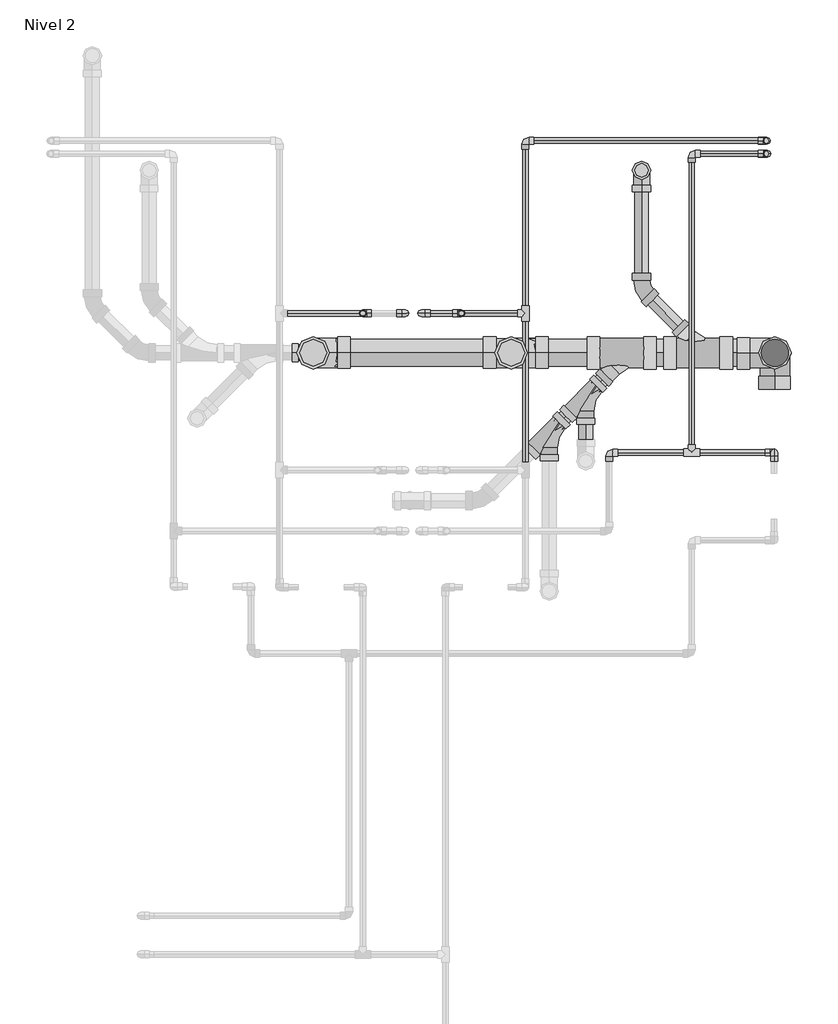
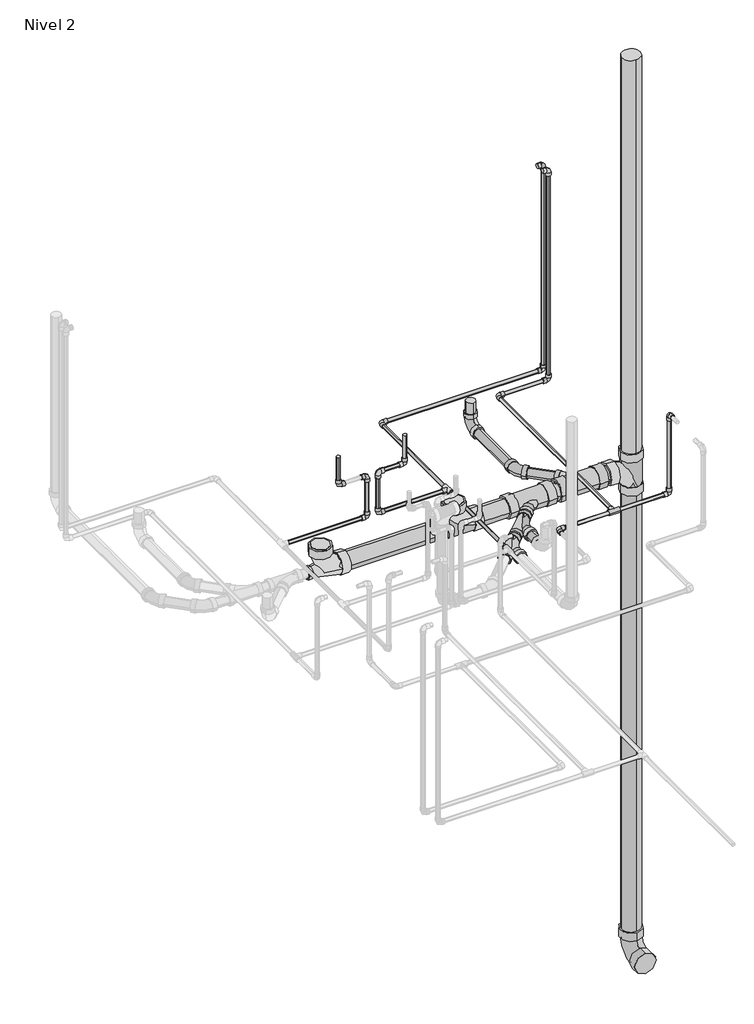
# One storey, part 9 of 9: 31 pipe segments, 27 pipe fittings.
"""IFC4 building model written with IfcOpenShell, lengths in millimetres."""

from ifc_helpers import new_model, si_unit, point, frame, frame_2d, origin, place, context, project, spatial, circle_curve, trimmed, segment, composite_curve, outline, extrude, transform, mapped, element, save
from components import pipe_fitting_ab418b84, pipe_fitting_0163322b, pipe_fitting_2a8dfbef, pipe_fitting_44a425ca, pipe_fitting_ef5974f2, m_codo_pvc_serie_40_9ad74631, m_codo_pvc_serie_40_ba05d404, m_codo_pvc_serie_40_dwv1_f5c0a64d, m_codo_pvc_serie_40_dwv1_6f1a2495, m_codo_pvc_serie_40_dwv1_326aaa64

model = new_model("IFC4")

# Units and contexts
model_context = context("Model", 3, world=origin())
ifc_project = project(units=[si_unit("LENGTHUNIT", "METRE", prefix="MILLI")], contexts=[model_context])

# Site, building, storey
site = spatial("IfcSite", under=ifc_project)
building = spatial("IfcBuilding", under=site)
storey = spatial("IfcBuildingStorey", under=building, Name="Nivel 2", Elevation=2800.0)

# Pipe fittings
placement = place(None, origin())
pipe_fitting_shape = pipe_fitting_ab418b84(model_context)
element("IfcPipeFitting", 1, ObjectType="M_Te - PVC - Serie 40 : Estándar", at=placement, inside=storey, context=model_context, shape_type="MappedRepresentation", body=[
    mapped(pipe_fitting_shape, transform((4894.5674476, 16556.8784649, 2750.0), x_axis=(0.0, 1.0, 0.0), y_axis=(1.0, 0.0, 0.0), z_axis=(0.0, 0.0, -1.0))),
])
element("IfcPipeFitting", 2, ObjectType="M_Te - PVC - Serie 40 : Estándar", at=placement, inside=storey, context=model_context, shape_type="MappedRepresentation", body=[
    mapped(pipe_fitting_shape, transform((5540.0276039, 16016.3878958, 2720.0), x_axis=(-1.0, 0.0, 0.0), y_axis=(0.0, -1.0, 0.0), z_axis=(0.0, 0.0, 1.0))),
])
pipe_fitting_2_shape = pipe_fitting_0163322b(model_context)
element("IfcPipeFitting", 3, ObjectType="M_Sanitario con te de reducción - PVC - Serie 40 - DWV : Estándar", at=placement, inside=storey, context=model_context, shape_type="MappedRepresentation", body=[
    mapped(pipe_fitting_2_shape, transform((5128.991198, 16235.29172, 2650.0), x_axis=(-0.7071067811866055, -0.7071067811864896, 0.0), y_axis=(-0.7071067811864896, 0.7071067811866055, 0.0), z_axis=(0.0, 0.0, -1.0))),
])
element("IfcPipeFitting", 4, ObjectType="M_Sanitario con te de reducción - PVC - Serie 40 - DWV : Estándar", at=placement, inside=storey, context=model_context, shape_type="MappedRepresentation", body=[
    mapped(pipe_fitting_2_shape, transform((4986.7349767, 16093.0354988, 2650.0), x_axis=(-0.7071067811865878, -0.7071067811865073, 0.0), y_axis=(-0.7071067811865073, 0.7071067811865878, 0.0), z_axis=(0.0, 0.0, -1.0))),
])
pipe_fitting_3_shape = pipe_fitting_2a8dfbef(model_context)
element("IfcPipeFitting", 5, ObjectType="M_Sanitario con te de reducción - PVC - Serie 40 - DWV : Estándar", at=placement, inside=storey, context=model_context, shape_type="MappedRepresentation", body=[
    mapped(pipe_fitting_3_shape, transform((4839.2491598, 16403.3960274, 2650.0), x_axis=(-1.0, 0.0, 0.0), y_axis=(0.0, 0.0, -1.0), z_axis=(0.0, -1.0, 0.0))),
])
element("IfcPipeFitting", 6, ObjectType="M_Sanitario con te de reducción - PVC - Serie 40 - DWV : Estándar", at=placement, inside=storey, context=model_context, shape_type="MappedRepresentation", body=[
    mapped(pipe_fitting_3_shape, transform((5863.1438745, 16403.3960274, 2650.0), x_axis=(0.0, 0.0, 1.0), y_axis=(1.0, 0.0, 0.0), z_axis=(0.0, 1.0, 0.0))),
])
pipe_fitting_4_shape = pipe_fitting_44a425ca(model_context)
element("IfcPipeFitting", 7, ObjectType="M_Sanitario con te de reducción - PVC - Serie 40 - DWV : Estándar", at=placement, inside=storey, context=model_context, shape_type="MappedRepresentation", body=[
    mapped(pipe_fitting_4_shape, transform((4070.6571051, 16403.3960274, 2650.0), x_axis=(-1.0, 0.0, 0.0), y_axis=(0.0, 0.0, -1.0), z_axis=(0.0, -1.0, 0.0))),
])
pipe_fitting_5_shape = pipe_fitting_ef5974f2(model_context)
element("IfcPipeFitting", 8, ObjectType="M_Sanitario con te de reducción - PVC - Serie 40 - DWV : Estándar", at=placement, inside=storey, context=model_context, shape_type="MappedRepresentation", body=[
    mapped(pipe_fitting_5_shape, transform((5593.2700372, 16403.3960274, 2650.0), x_axis=(-1.0, 0.0, 0.0), y_axis=(0.0, -1.0, 0.0), z_axis=(0.0, 0.0, 1.0))),
])
element("IfcPipeFitting", 9, ObjectType="M_Sanitario con te de reducción - PVC - Serie 40 - DWV : Estándar", at=placement, inside=storey, context=model_context, shape_type="MappedRepresentation", body=[
    mapped(pipe_fitting_5_shape, transform((5297.0955053, 16403.3960274, 2650.0), x_axis=(-1.0, 0.0, 0.0), y_axis=(0.0, 1.0, 0.0), z_axis=(0.0, 0.0, -1.0))),
])
m_codo_pvc_serie_40_shape = m_codo_pvc_serie_40_9ad74631(model_context)
element("IfcPipeFitting", 10, ObjectType="M_Codo - PVC - Serie 40 : Estándar", at=placement, inside=storey, context=model_context, shape_type="MappedRepresentation", body=[
    mapped(m_codo_pvc_serie_40_shape, transform((4263.6339186, 16556.8784649, 3000.0), x_axis=(0.0, 0.0, -1.0), y_axis=(1.0, 0.0, 0.0), z_axis=(0.0, -1.0, 0.0))),
])
element("IfcPipeFitting", 11, ObjectType="M_Codo - PVC - Serie 40 : Estándar", at=placement, inside=storey, context=model_context, shape_type="MappedRepresentation", body=[
    mapped(m_codo_pvc_serie_40_shape, transform((4428.6339186, 16556.8784649, 3000.0), x_axis=(1.0, 0.0, 0.0), y_axis=(0.0, 0.0, -1.0), z_axis=(0.0, 1.0, 0.0))),
])
element("IfcPipeFitting", 12, ObjectType="M_Codo - PVC - Serie 40 : Estándar", at=placement, inside=storey, context=model_context, shape_type="MappedRepresentation", body=[
    mapped(m_codo_pvc_serie_40_shape, transform((4428.6339186, 16556.8784649, 2750.0), x_axis=(0.0, 0.0, -1.0), y_axis=(-1.0, 0.0, 0.0), z_axis=(0.0, 1.0, 0.0))),
])
element("IfcPipeFitting", 13, ObjectType="M_Codo - PVC - Serie 40 : Estándar", at=placement, inside=storey, context=model_context, shape_type="MappedRepresentation", body=[
    mapped(m_codo_pvc_serie_40_shape, transform((4646.2723463, 16556.8784649, 3000.0), x_axis=(0.0, 0.0, -1.0), y_axis=(-1.0, 0.0, 0.0), z_axis=(0.0, 1.0, 0.0))),
])
element("IfcPipeFitting", 14, ObjectType="M_Codo - PVC - Serie 40 : Estándar", at=placement, inside=storey, context=model_context, shape_type="MappedRepresentation", body=[
    mapped(m_codo_pvc_serie_40_shape, transform((4491.2723463, 16556.8784649, 3000.0), x_axis=(-1.0, 0.0, 0.0), y_axis=(0.0, 0.0, -1.0), z_axis=(0.0, -1.0, 0.0))),
])
element("IfcPipeFitting", 15, ObjectType="M_Codo - PVC - Serie 40 : Estándar", at=placement, inside=storey, context=model_context, shape_type="MappedRepresentation", body=[
    mapped(m_codo_pvc_serie_40_shape, transform((4894.5674476, 17227.3386211, 2750.0), x_axis=(-1.0, 0.0, 0.0), y_axis=(0.0, -1.0, 0.0), z_axis=(0.0, 0.0, 1.0))),
])
element("IfcPipeFitting", 16, ObjectType="M_Codo - PVC - Serie 40 : Estándar", at=placement, inside=storey, context=model_context, shape_type="MappedRepresentation", body=[
    mapped(m_codo_pvc_serie_40_shape, transform((4491.2723463, 16556.8784649, 2750.0), x_axis=(0.0, 0.0, -1.0), y_axis=(1.0, 0.0, 0.0), z_axis=(0.0, -1.0, 0.0))),
])
element("IfcPipeFitting", 17, ObjectType="M_Codo - PVC - Serie 40 : Estándar", at=placement, inside=storey, context=model_context, shape_type="MappedRepresentation", body=[
    mapped(m_codo_pvc_serie_40_shape, transform((5860.0276039, 16016.3878958, 3200.0), x_axis=(0.0, 1.0, 0.0), y_axis=(0.0, 0.0, -1.0), z_axis=(-1.0, 0.0, 0.0))),
])
element("IfcPipeFitting", 18, ObjectType="M_Codo - PVC - Serie 40 : Estándar", at=placement, inside=storey, context=model_context, shape_type="MappedRepresentation", body=[
    mapped(m_codo_pvc_serie_40_shape, transform((5860.0276039, 16016.3878958, 2720.0), x_axis=(0.0, 0.0, -1.0), y_axis=(-1.0, 0.0, 0.0), z_axis=(0.0, 1.0, 0.0))),
])
element("IfcPipeFitting", 19, ObjectType="M_Codo - PVC - Serie 40 : Estándar", at=placement, inside=storey, context=model_context, shape_type="MappedRepresentation", body=[
    mapped(m_codo_pvc_serie_40_shape, transform((5540.0276039, 17176.3878958, 2720.0), x_axis=(-1.0, 0.0, 0.0), y_axis=(0.0, -1.0, 0.0), z_axis=(0.0, 0.0, 1.0))),
])
element("IfcPipeFitting", 20, ObjectType="M_Codo - PVC - Serie 40 : Estándar", at=placement, inside=storey, context=model_context, shape_type="MappedRepresentation", body=[
    mapped(m_codo_pvc_serie_40_shape, transform((5832.5276039, 17176.3878958, 2720.0), x_axis=(1.0, 0.0, 0.0), y_axis=(0.0, 0.0, 1.0), z_axis=(0.0, -1.0, 0.0))),
])
element("IfcPipeFitting", 21, ObjectType="M_Codo - PVC - Serie 40 : Estándar", at=placement, inside=storey, context=model_context, shape_type="MappedRepresentation", body=[
    mapped(m_codo_pvc_serie_40_shape, transform((5832.5276039, 17176.3878958, 4000.0), x_axis=(0.0, 0.0, 1.0), y_axis=(-1.0, 0.0, 0.0), z_axis=(0.0, -1.0, 0.0))),
])
element("IfcPipeFitting", 22, ObjectType="M_Codo - PVC - Serie 40 : Estándar", at=placement, inside=storey, context=model_context, shape_type="MappedRepresentation", body=[
    mapped(m_codo_pvc_serie_40_shape, transform((5219.5674476, 16016.3878958, 2720.0), x_axis=(-1.0, 0.0, 0.0), y_axis=(0.0, -1.0, 0.0), z_axis=(0.0, 0.0, 1.0))),
])
m_codo_pvc_serie_40_2_shape = m_codo_pvc_serie_40_ba05d404(model_context)
element("IfcPipeFitting", 23, ObjectType="M_Codo - PVC - Serie 40 : Estándar", at=placement, inside=storey, context=model_context, shape_type="MappedRepresentation", body=[
    mapped(m_codo_pvc_serie_40_2_shape, transform((5831.7288958, 17227.3386211, 2750.0), x_axis=(1.0, 0.0, 0.0), y_axis=(0.0, 0.0, -1.0), z_axis=(0.0, 1.0, 0.0))),
])
element("IfcPipeFitting", 24, ObjectType="M_Codo - PVC - Serie 40 : Estándar", at=placement, inside=storey, context=model_context, shape_type="MappedRepresentation", body=[
    mapped(m_codo_pvc_serie_40_2_shape, transform((5831.7288958, 17227.3386211, 4000.0), x_axis=(0.0, 0.0, 1.0), y_axis=(1.0, 0.0, 0.0), z_axis=(0.0, 1.0, 0.0))),
])
m_codo_pvc_serie_40_dwv1_shape = m_codo_pvc_serie_40_dwv1_f5c0a64d(model_context)
element("IfcPipeFitting", 25, ObjectType="M_Codo - PVC - Serie 40 - DWV1 : Estándar 2", at=placement, inside=storey, context=model_context, shape_type="MappedRepresentation", body=[
    mapped(m_codo_pvc_serie_40_dwv1_shape, transform((5863.1438745, 16403.3960274, -300.0), x_axis=(0.0, 0.0, -1.0), y_axis=(0.0, -1.0, 0.0), z_axis=(-1.0, 0.0, 0.0))),
])
m_codo_pvc_serie_40_dwv1_2_shape = m_codo_pvc_serie_40_dwv1_6f1a2495(model_context)
element("IfcPipeFitting", 26, ObjectType="M_Codo - PVC - Serie 40 - DWV1 : Estándar 2", at=placement, inside=storey, context=model_context, shape_type="MappedRepresentation", body=[
    mapped(m_codo_pvc_serie_40_dwv1_2_shape, transform((5345.3911414, 16651.2749231, 2650.0), x_axis=(0.0, -1.0, 0.0), y_axis=(1.0, 0.0, 0.0), z_axis=(0.0, 0.0, 1.0))),
])
m_codo_pvc_serie_40_dwv1_3_shape = m_codo_pvc_serie_40_dwv1_326aaa64(model_context)
element("IfcPipeFitting", 27, ObjectType="M_Codo - PVC - Serie 40 - DWV1 : Estándar 2", at=placement, inside=storey, context=model_context, shape_type="MappedRepresentation", body=[
    mapped(m_codo_pvc_serie_40_dwv1_3_shape, transform((5345.3911414, 17111.7600116, 2650.0), x_axis=(0.0, 1.0, 0.0), y_axis=(0.0, 0.0, -1.0), z_axis=(-1.0, 0.0, 0.0))),
])

# Pipe segments
element("IfcPipeSegment", 28, ObjectType="Tuberia PVC Agua Fria", at=placement, inside=storey, context=model_context, shape_type="SweptSolid", body=[
    extrude(outline(composite_curve([segment(trimmed(circle_curve(frame_2d((4263.6339186, 16556.8784649)), 10.31875), [point((4273.9526686, 16556.8784649))], [point((4263.6339186, 16546.5597149))], False, "CARTESIAN"), True, "CONTINUOUS"), segment(trimmed(circle_curve(frame_2d((4263.6339186, 16556.8784649)), 10.31875), [point((4263.6339186, 16546.5597149))], [point((4253.3151686, 16556.8784649))], False, "CARTESIAN"), True, "CONTINUOUS"), segment(trimmed(circle_curve(frame_2d((4263.6339186, 16556.8784649)), 10.31875), [point((4253.3151686, 16556.8784649))], [point((4263.6339186, 16567.1972149))], False, "CARTESIAN"), True, "CONTINUOUS"), segment(trimmed(circle_curve(frame_2d((4263.6339186, 16556.8784649)), 10.31875), [point((4263.6339186, 16567.1972149))], [point((4273.9526686, 16556.8784649))], False, "CARTESIAN"), True, "CONTINUOUS")], self_intersect=False)), frame((0.0, 0.0, 3033.401), z_axis=(0.0, 0.0, 1.0), x_axis=(1.0, 0.0, 0.0)), (0.0, 0.0, 1.0), 139.7562509),
])
element("IfcPipeSegment", 29, ObjectType="Tuberia PVC Agua Fria", at=placement, inside=storey, context=model_context, shape_type="SweptSolid", body=[
    extrude(outline(composite_curve([segment(trimmed(circle_curve(frame_2d((16556.8784649, 2750.0)), 10.31875), [point((16567.1972149, 2750.0))], [point((16556.8784649, 2739.68125))], False, "CARTESIAN"), True, "CONTINUOUS"), segment(trimmed(circle_curve(frame_2d((16556.8784649, 2750.0)), 10.31875), [point((16556.8784649, 2739.68125))], [point((16546.5597149, 2750.0))], False, "CARTESIAN"), True, "CONTINUOUS"), segment(trimmed(circle_curve(frame_2d((16556.8784649, 2750.0)), 10.31875), [point((16546.5597149, 2750.0))], [point((16556.8784649, 2760.31875))], False, "CARTESIAN"), True, "CONTINUOUS"), segment(trimmed(circle_curve(frame_2d((16556.8784649, 2750.0)), 10.31875), [point((16556.8784649, 2760.31875))], [point((16567.1972149, 2750.0))], False, "CARTESIAN"), True, "CONTINUOUS")], self_intersect=False)), frame((3970.5125253, 0.0, 0.0), z_axis=(1.0, 0.0, 0.0), x_axis=(0.0, 1.0, 0.0)), (0.0, 0.0, 1.0), 424.7203933),
])
element("IfcPipeSegment", 30, ObjectType="Tuberia PVC Agua Fria", at=placement, inside=storey, context=model_context, shape_type="SweptSolid", body=[
    extrude(outline(composite_curve([segment(trimmed(circle_curve(frame_2d((4428.6339186, 16556.8784649)), 10.31875), [point((4438.9526686, 16556.8784649))], [point((4428.6339186, 16546.5597149))], False, "CARTESIAN"), True, "CONTINUOUS"), segment(trimmed(circle_curve(frame_2d((4428.6339186, 16556.8784649)), 10.31875), [point((4428.6339186, 16546.5597149))], [point((4418.3151686, 16556.8784649))], False, "CARTESIAN"), True, "CONTINUOUS"), segment(trimmed(circle_curve(frame_2d((4428.6339186, 16556.8784649)), 10.31875), [point((4418.3151686, 16556.8784649))], [point((4428.6339186, 16567.1972149))], False, "CARTESIAN"), True, "CONTINUOUS"), segment(trimmed(circle_curve(frame_2d((4428.6339186, 16556.8784649)), 10.31875), [point((4428.6339186, 16567.1972149))], [point((4438.9526686, 16556.8784649))], False, "CARTESIAN"), True, "CONTINUOUS")], self_intersect=False)), frame((0.0, 0.0, 2783.401), z_axis=(0.0, 0.0, 1.0), x_axis=(1.0, 0.0, 0.0)), (0.0, 0.0, 1.0), 183.198),
])
element("IfcPipeSegment", 31, ObjectType="Tuberia PVC Agua Fria", at=placement, inside=storey, context=model_context, shape_type="SweptSolid", body=[
    extrude(outline(composite_curve([segment(trimmed(circle_curve(frame_2d((16556.8784649, 3000.0)), 10.31875), [point((16567.1972149, 3000.0))], [point((16556.8784649, 2989.68125))], False, "CARTESIAN"), True, "CONTINUOUS"), segment(trimmed(circle_curve(frame_2d((16556.8784649, 3000.0)), 10.31875), [point((16556.8784649, 2989.68125))], [point((16546.5597149, 3000.0))], False, "CARTESIAN"), True, "CONTINUOUS"), segment(trimmed(circle_curve(frame_2d((16556.8784649, 3000.0)), 10.31875), [point((16546.5597149, 3000.0))], [point((16556.8784649, 3010.31875))], False, "CARTESIAN"), True, "CONTINUOUS"), segment(trimmed(circle_curve(frame_2d((16556.8784649, 3000.0)), 10.31875), [point((16556.8784649, 3010.31875))], [point((16567.1972149, 3000.0))], False, "CARTESIAN"), True, "CONTINUOUS")], self_intersect=False)), frame((4524.6733463, 0.0, 0.0), z_axis=(1.0, 0.0, 0.0), x_axis=(0.0, 1.0, 0.0)), (0.0, 0.0, 1.0), 88.198),
])
element("IfcPipeSegment", 32, ObjectType="Tuberia PVC Agua Fria", at=placement, inside=storey, context=model_context, shape_type="SweptSolid", body=[
    extrude(outline(composite_curve([segment(trimmed(circle_curve(frame_2d((4646.2723463, 16556.8784649)), 10.31875), [point((4656.5910963, 16556.8784649))], [point((4646.2723463, 16546.5597149))], False, "CARTESIAN"), True, "CONTINUOUS"), segment(trimmed(circle_curve(frame_2d((4646.2723463, 16556.8784649)), 10.31875), [point((4646.2723463, 16546.5597149))], [point((4635.9535963, 16556.8784649))], False, "CARTESIAN"), True, "CONTINUOUS"), segment(trimmed(circle_curve(frame_2d((4646.2723463, 16556.8784649)), 10.31875), [point((4635.9535963, 16556.8784649))], [point((4646.2723463, 16567.1972149))], False, "CARTESIAN"), True, "CONTINUOUS"), segment(trimmed(circle_curve(frame_2d((4646.2723463, 16556.8784649)), 10.31875), [point((4646.2723463, 16567.1972149))], [point((4656.5910963, 16556.8784649))], False, "CARTESIAN"), True, "CONTINUOUS")], self_intersect=False)), frame((0.0, 0.0, 3033.401), z_axis=(0.0, 0.0, 1.0), x_axis=(1.0, 0.0, 0.0)), (0.0, 0.0, 1.0), 139.7562509),
])
element("IfcPipeSegment", 33, ObjectType="Tuberia PVC Agua Fria", at=placement, inside=storey, context=model_context, shape_type="SweptSolid", body=[
    extrude(outline(composite_curve([segment(trimmed(circle_curve(frame_2d((4491.2723463, 16556.8784649)), 10.31875), [point((4501.5910963, 16556.8784649))], [point((4491.2723463, 16546.5597149))], False, "CARTESIAN"), True, "CONTINUOUS"), segment(trimmed(circle_curve(frame_2d((4491.2723463, 16556.8784649)), 10.31875), [point((4491.2723463, 16546.5597149))], [point((4480.9535963, 16556.8784649))], False, "CARTESIAN"), True, "CONTINUOUS"), segment(trimmed(circle_curve(frame_2d((4491.2723463, 16556.8784649)), 10.31875), [point((4480.9535963, 16556.8784649))], [point((4491.2723463, 16567.1972149))], False, "CARTESIAN"), True, "CONTINUOUS"), segment(trimmed(circle_curve(frame_2d((4491.2723463, 16556.8784649)), 10.31875), [point((4491.2723463, 16567.1972149))], [point((4501.5910963, 16556.8784649))], False, "CARTESIAN"), True, "CONTINUOUS")], self_intersect=False)), frame((0.0, 0.0, 2783.401), z_axis=(0.0, 0.0, 1.0), x_axis=(1.0, 0.0, 0.0)), (0.0, 0.0, 1.0), 183.198),
])
element("IfcPipeSegment", 34, ObjectType="Tuberia PVC Agua Fria", at=placement, inside=storey, context=model_context, shape_type="SweptSolid", body=[
    extrude(outline(composite_curve([segment(trimmed(circle_curve(frame_2d((17227.3386211, 2750.0)), 10.31875), [point((17217.0198711, 2750.0))], [point((17227.3386211, 2760.31875))], False, "CARTESIAN"), True, "CONTINUOUS"), segment(trimmed(circle_curve(frame_2d((17227.3386211, 2750.0)), 10.31875), [point((17227.3386211, 2760.31875))], [point((17237.6573711, 2750.0))], False, "CARTESIAN"), True, "CONTINUOUS"), segment(trimmed(circle_curve(frame_2d((17227.3386211, 2750.0)), 10.31875), [point((17237.6573711, 2750.0))], [point((17227.3386211, 2739.68125))], False, "CARTESIAN"), True, "CONTINUOUS"), segment(trimmed(circle_curve(frame_2d((17227.3386211, 2750.0)), 10.31875), [point((17227.3386211, 2739.68125))], [point((17217.0198711, 2750.0))], False, "CARTESIAN"), True, "CONTINUOUS")], self_intersect=False)), frame((4927.9684476, 0.0, 0.0), z_axis=(1.0, 0.0, 0.0), x_axis=(0.0, 1.0, 0.0)), (0.0, 0.0, 1.0), 870.3594481),
])
element("IfcPipeSegment", 35, ObjectType="Tuberia PVC Agua Fria", at=placement, inside=storey, context=model_context, shape_type="SweptSolid", body=[
    extrude(outline(composite_curve([segment(trimmed(circle_curve(frame_2d((5831.7288958, 17227.3386211)), 10.31875), [point((5821.4101458, 17227.3386211))], [point((5831.7288958, 17237.6573711))], False, "CARTESIAN"), True, "CONTINUOUS"), segment(trimmed(circle_curve(frame_2d((5831.7288958, 17227.3386211)), 10.31875), [point((5831.7288958, 17237.6573711))], [point((5842.0476458, 17227.3386211))], False, "CARTESIAN"), True, "CONTINUOUS"), segment(trimmed(circle_curve(frame_2d((5831.7288958, 17227.3386211)), 10.31875), [point((5842.0476458, 17227.3386211))], [point((5831.7288958, 17217.0198711))], False, "CARTESIAN"), True, "CONTINUOUS"), segment(trimmed(circle_curve(frame_2d((5831.7288958, 17227.3386211)), 10.31875), [point((5831.7288958, 17217.0198711))], [point((5821.4101458, 17227.3386211))], False, "CARTESIAN"), True, "CONTINUOUS")], self_intersect=False)), frame((0.0, 0.0, 2783.401), z_axis=(0.0, 0.0, 1.0), x_axis=(1.0, 0.0, 0.0)), (0.0, 0.0, 1.0), 1183.198),
])
element("IfcPipeSegment", 36, ObjectType="Tuberia PVC Agua Fria", at=placement, inside=storey, context=model_context, shape_type="SweptSolid", body=[
    extrude(outline(composite_curve([segment(trimmed(circle_curve(frame_2d((16556.8784649, 2750.0)), 10.31875), [point((16546.5597149, 2750.0))], [point((16556.8784649, 2760.31875))], False, "CARTESIAN"), True, "CONTINUOUS"), segment(trimmed(circle_curve(frame_2d((16556.8784649, 2750.0)), 10.31875), [point((16556.8784649, 2760.31875))], [point((16567.1972149, 2750.0))], False, "CARTESIAN"), True, "CONTINUOUS"), segment(trimmed(circle_curve(frame_2d((16556.8784649, 2750.0)), 10.31875), [point((16567.1972149, 2750.0))], [point((16556.8784649, 2739.68125))], False, "CARTESIAN"), True, "CONTINUOUS"), segment(trimmed(circle_curve(frame_2d((16556.8784649, 2750.0)), 10.31875), [point((16556.8784649, 2739.68125))], [point((16546.5597149, 2750.0))], False, "CARTESIAN"), True, "CONTINUOUS")], self_intersect=False)), frame((4524.6733463, 0.0, 0.0), z_axis=(1.0, 0.0, 0.0), x_axis=(0.0, 1.0, 0.0)), (0.0, 0.0, 1.0), 339.4339451),
])
element("IfcPipeSegment", 37, ObjectType="Tuberia PVC Agua Fria", at=placement, inside=storey, context=model_context, shape_type="SweptSolid", body=[
    extrude(outline(composite_curve([segment(trimmed(circle_curve(frame_2d((2750.0, 4894.5674476)), 10.31875), [point((2750.0, 4884.2486976))], [point((2739.68125, 4894.5674476))], False, "CARTESIAN"), True, "CONTINUOUS"), segment(trimmed(circle_curve(frame_2d((2750.0, 4894.5674476)), 10.31875), [point((2739.68125, 4894.5674476))], [point((2750.0, 4904.8861976))], False, "CARTESIAN"), True, "CONTINUOUS"), segment(trimmed(circle_curve(frame_2d((2750.0, 4894.5674476)), 10.31875), [point((2750.0, 4904.8861976))], [point((2760.31875, 4894.5674476))], False, "CARTESIAN"), True, "CONTINUOUS"), segment(trimmed(circle_curve(frame_2d((2750.0, 4894.5674476)), 10.31875), [point((2760.31875, 4894.5674476))], [point((2750.0, 4884.2486976))], False, "CARTESIAN"), True, "CONTINUOUS")], self_intersect=False)), frame((0.0, 15978.8385729, 0.0), z_axis=(0.0, 1.0, 0.0), x_axis=(0.0, 0.0, 1.0)), (0.0, 0.0, 1.0), 547.5797357),
])
element("IfcPipeSegment", 38, ObjectType="Tuberia PVC Agua Fria", at=placement, inside=storey, context=model_context, shape_type="SweptSolid", body=[
    extrude(outline(composite_curve([segment(trimmed(circle_curve(frame_2d((2750.0, 4894.5674476)), 10.31875), [point((2750.0, 4884.2486976))], [point((2739.68125, 4894.5674476))], False, "CARTESIAN"), True, "CONTINUOUS"), segment(trimmed(circle_curve(frame_2d((2750.0, 4894.5674476)), 10.31875), [point((2739.68125, 4894.5674476))], [point((2750.0, 4904.8861976))], False, "CARTESIAN"), True, "CONTINUOUS"), segment(trimmed(circle_curve(frame_2d((2750.0, 4894.5674476)), 10.31875), [point((2750.0, 4904.8861976))], [point((2760.31875, 4894.5674476))], False, "CARTESIAN"), True, "CONTINUOUS"), segment(trimmed(circle_curve(frame_2d((2750.0, 4894.5674476)), 10.31875), [point((2760.31875, 4894.5674476))], [point((2750.0, 4884.2486976))], False, "CARTESIAN"), True, "CONTINUOUS")], self_intersect=False)), frame((0.0, 16587.3386211, 0.0), z_axis=(0.0, 1.0, 0.0), x_axis=(0.0, 0.0, 1.0)), (0.0, 0.0, 1.0), 606.599),
])
element("IfcPipeSegment", 39, ObjectType="Tuberia PVC Agua Caliente", at=placement, inside=storey, context=model_context, shape_type="SweptSolid", body=[
    extrude(outline(composite_curve([segment(trimmed(circle_curve(frame_2d((16016.3878958, 2720.0)), 10.31875), [point((16026.7066458, 2720.0))], [point((16016.3878958, 2709.68125))], False, "CARTESIAN"), True, "CONTINUOUS"), segment(trimmed(circle_curve(frame_2d((16016.3878958, 2720.0)), 10.31875), [point((16016.3878958, 2709.68125))], [point((16006.0691458, 2720.0))], False, "CARTESIAN"), True, "CONTINUOUS"), segment(trimmed(circle_curve(frame_2d((16016.3878958, 2720.0)), 10.31875), [point((16006.0691458, 2720.0))], [point((16016.3878958, 2730.31875))], False, "CARTESIAN"), True, "CONTINUOUS"), segment(trimmed(circle_curve(frame_2d((16016.3878958, 2720.0)), 10.31875), [point((16016.3878958, 2730.31875))], [point((16026.7066458, 2720.0))], False, "CARTESIAN"), True, "CONTINUOUS")], self_intersect=False)), frame((5570.4877601, 0.0, 0.0), z_axis=(1.0, 0.0, 0.0), x_axis=(0.0, 1.0, 0.0)), (0.0, 0.0, 1.0), 256.1388438),
])
element("IfcPipeSegment", 40, ObjectType="Tuberia PVC Agua Caliente", at=placement, inside=storey, context=model_context, shape_type="SweptSolid", body=[
    extrude(outline(composite_curve([segment(trimmed(circle_curve(frame_2d((5860.0276039, 16016.3878958)), 10.31875), [point((5870.3463539, 16016.3878958))], [point((5860.0276039, 16006.0691458))], False, "CARTESIAN"), True, "CONTINUOUS"), segment(trimmed(circle_curve(frame_2d((5860.0276039, 16016.3878958)), 10.31875), [point((5860.0276039, 16006.0691458))], [point((5849.7088539, 16016.3878958))], False, "CARTESIAN"), True, "CONTINUOUS"), segment(trimmed(circle_curve(frame_2d((5860.0276039, 16016.3878958)), 10.31875), [point((5849.7088539, 16016.3878958))], [point((5860.0276039, 16026.7066458))], False, "CARTESIAN"), True, "CONTINUOUS"), segment(trimmed(circle_curve(frame_2d((5860.0276039, 16016.3878958)), 10.31875), [point((5860.0276039, 16026.7066458))], [point((5870.3463539, 16016.3878958))], False, "CARTESIAN"), True, "CONTINUOUS")], self_intersect=False)), frame((0.0, 0.0, 2753.401), z_axis=(0.0, 0.0, 1.0), x_axis=(1.0, 0.0, 0.0)), (0.0, 0.0, 1.0), 413.198),
])
element("IfcPipeSegment", 41, ObjectType="Tuberia PVC Agua Caliente", at=placement, inside=storey, context=model_context, shape_type="SweptSolid", body=[
    extrude(outline(composite_curve([segment(trimmed(circle_curve(frame_2d((2720.0, 5540.0276039)), 10.31875), [point((2720.0, 5550.3463539))], [point((2730.31875, 5540.0276039))], False, "CARTESIAN"), True, "CONTINUOUS"), segment(trimmed(circle_curve(frame_2d((2720.0, 5540.0276039)), 10.31875), [point((2730.31875, 5540.0276039))], [point((2720.0, 5529.7088539))], False, "CARTESIAN"), True, "CONTINUOUS"), segment(trimmed(circle_curve(frame_2d((2720.0, 5540.0276039)), 10.31875), [point((2720.0, 5529.7088539))], [point((2709.68125, 5540.0276039))], False, "CARTESIAN"), True, "CONTINUOUS"), segment(trimmed(circle_curve(frame_2d((2720.0, 5540.0276039)), 10.31875), [point((2709.68125, 5540.0276039))], [point((2720.0, 5550.3463539))], False, "CARTESIAN"), True, "CONTINUOUS")], self_intersect=False)), frame((0.0, 16046.848052, 0.0), z_axis=(0.0, 1.0, 0.0), x_axis=(0.0, 0.0, 1.0)), (0.0, 0.0, 1.0), 1096.1388438),
])
element("IfcPipeSegment", 42, ObjectType="Tuberia PVC Agua Caliente", at=placement, inside=storey, context=model_context, shape_type="SweptSolid", body=[
    extrude(outline(composite_curve([segment(trimmed(circle_curve(frame_2d((17176.3878958, 2720.0)), 10.31875), [point((17166.0691458, 2720.0))], [point((17176.3878958, 2730.31875))], False, "CARTESIAN"), True, "CONTINUOUS"), segment(trimmed(circle_curve(frame_2d((17176.3878958, 2720.0)), 10.31875), [point((17176.3878958, 2730.31875))], [point((17186.7066458, 2720.0))], False, "CARTESIAN"), True, "CONTINUOUS"), segment(trimmed(circle_curve(frame_2d((17176.3878958, 2720.0)), 10.31875), [point((17186.7066458, 2720.0))], [point((17176.3878958, 2709.68125))], False, "CARTESIAN"), True, "CONTINUOUS"), segment(trimmed(circle_curve(frame_2d((17176.3878958, 2720.0)), 10.31875), [point((17176.3878958, 2709.68125))], [point((17166.0691458, 2720.0))], False, "CARTESIAN"), True, "CONTINUOUS")], self_intersect=False)), frame((5573.4286039, 0.0, 0.0), z_axis=(1.0, 0.0, 0.0), x_axis=(0.0, 1.0, 0.0)), (0.0, 0.0, 1.0), 225.698),
])
element("IfcPipeSegment", 43, ObjectType="Tuberia PVC Agua Caliente", at=placement, inside=storey, context=model_context, shape_type="SweptSolid", body=[
    extrude(outline(composite_curve([segment(trimmed(circle_curve(frame_2d((5832.5276039, 17176.3878958)), 10.31875), [point((5822.2088539, 17176.3878958))], [point((5832.5276039, 17186.7066458))], False, "CARTESIAN"), True, "CONTINUOUS"), segment(trimmed(circle_curve(frame_2d((5832.5276039, 17176.3878958)), 10.31875), [point((5832.5276039, 17186.7066458))], [point((5842.8463539, 17176.3878958))], False, "CARTESIAN"), True, "CONTINUOUS"), segment(trimmed(circle_curve(frame_2d((5832.5276039, 17176.3878958)), 10.31875), [point((5842.8463539, 17176.3878958))], [point((5832.5276039, 17166.0691458))], False, "CARTESIAN"), True, "CONTINUOUS"), segment(trimmed(circle_curve(frame_2d((5832.5276039, 17176.3878958)), 10.31875), [point((5832.5276039, 17166.0691458))], [point((5822.2088539, 17176.3878958))], False, "CARTESIAN"), True, "CONTINUOUS")], self_intersect=False)), frame((0.0, 0.0, 2753.401), z_axis=(0.0, 0.0, 1.0), x_axis=(1.0, 0.0, 0.0)), (0.0, 0.0, 1.0), 1213.198),
])
element("IfcPipeSegment", 44, ObjectType="Tuberia PVC Agua Caliente", at=placement, inside=storey, context=model_context, shape_type="SweptSolid", body=[
    extrude(outline(composite_curve([segment(trimmed(circle_curve(frame_2d((16016.3878958, 2720.0)), 10.31875), [point((16026.7066458, 2720.0))], [point((16016.3878958, 2709.68125))], False, "CARTESIAN"), True, "CONTINUOUS"), segment(trimmed(circle_curve(frame_2d((16016.3878958, 2720.0)), 10.31875), [point((16016.3878958, 2709.68125))], [point((16006.0691458, 2720.0))], False, "CARTESIAN"), True, "CONTINUOUS"), segment(trimmed(circle_curve(frame_2d((16016.3878958, 2720.0)), 10.31875), [point((16006.0691458, 2720.0))], [point((16016.3878958, 2730.31875))], False, "CARTESIAN"), True, "CONTINUOUS"), segment(trimmed(circle_curve(frame_2d((16016.3878958, 2720.0)), 10.31875), [point((16016.3878958, 2730.31875))], [point((16026.7066458, 2720.0))], False, "CARTESIAN"), True, "CONTINUOUS")], self_intersect=False)), frame((5252.9684476, 0.0, 0.0), z_axis=(1.0, 0.0, 0.0), x_axis=(0.0, 1.0, 0.0)), (0.0, 0.0, 1.0), 256.599),
])
element("IfcPipeSegment", 45, ObjectType="Tuberia PVC Sanitario", at=placement, inside=storey, context=model_context, shape_type="SweptSolid", body=[
    extrude(outline(composite_curve([segment(trimmed(circle_curve(frame_2d((4839.2491598, 16403.3960274)), 52.3875), [point((4891.6366598, 16403.3960274))], [point((4839.2491598, 16351.0085274))], False, "CARTESIAN"), True, "CONTINUOUS"), segment(trimmed(circle_curve(frame_2d((4839.2491598, 16403.3960274)), 52.3875), [point((4839.2491598, 16351.0085274))], [point((4786.8616598, 16403.3960274))], False, "CARTESIAN"), True, "CONTINUOUS"), segment(trimmed(circle_curve(frame_2d((4839.2491598, 16403.3960274)), 52.3875), [point((4786.8616598, 16403.3960274))], [point((4839.2491598, 16455.7835274))], False, "CARTESIAN"), True, "CONTINUOUS"), segment(trimmed(circle_curve(frame_2d((4839.2491598, 16403.3960274)), 52.3875), [point((4839.2491598, 16455.7835274))], [point((4891.6366598, 16403.3960274))], False, "CARTESIAN"), True, "CONTINUOUS")], self_intersect=False)), frame((0.0, 0.0, 2796.8159688), z_axis=(0.0, 0.0, 1.0), x_axis=(1.0, 0.0, 0.0)), (0.0, 0.0, 1.0), 3.1840312),
])
element("IfcPipeSegment", 46, ObjectType="Tuberia PVC Sanitario", at=placement, inside=storey, context=model_context, shape_type="SweptSolid", body=[
    extrude(outline(composite_curve([segment(trimmed(circle_curve(frame_2d((4070.6571051, 16403.3960274)), 52.3875), [point((4123.0446051, 16403.3960274))], [point((4070.6571051, 16351.0085274))], False, "CARTESIAN"), True, "CONTINUOUS"), segment(trimmed(circle_curve(frame_2d((4070.6571051, 16403.3960274)), 52.3875), [point((4070.6571051, 16351.0085274))], [point((4018.2696051, 16403.3960274))], False, "CARTESIAN"), True, "CONTINUOUS"), segment(trimmed(circle_curve(frame_2d((4070.6571051, 16403.3960274)), 52.3875), [point((4018.2696051, 16403.3960274))], [point((4070.6571051, 16455.7835274))], False, "CARTESIAN"), True, "CONTINUOUS"), segment(trimmed(circle_curve(frame_2d((4070.6571051, 16403.3960274)), 52.3875), [point((4070.6571051, 16455.7835274))], [point((4123.0446051, 16403.3960274))], False, "CARTESIAN"), True, "CONTINUOUS")], self_intersect=False)), frame((0.0, 0.0, 2796.8159687), z_axis=(0.0, 0.0, 1.0), x_axis=(1.0, 0.0, 0.0)), (0.0, 0.0, 1.0), 3.1840313),
])
element("IfcPipeSegment", 47, ObjectType="Tuberia PVC Sanitario", at=placement, inside=storey, context=model_context, shape_type="SweptSolid", body=[
    extrude(outline(composite_curve([segment(trimmed(circle_curve(frame_2d((16403.3960274, 2650.0)), 52.3875), [point((16351.0085274, 2650.0))], [point((16403.3960274, 2702.3875))], False, "CARTESIAN"), True, "CONTINUOUS"), segment(trimmed(circle_curve(frame_2d((16403.3960274, 2650.0)), 52.3875), [point((16403.3960274, 2702.3875))], [point((16455.7835274, 2650.0))], False, "CARTESIAN"), True, "CONTINUOUS"), segment(trimmed(circle_curve(frame_2d((16403.3960274, 2650.0)), 52.3875), [point((16455.7835274, 2650.0))], [point((16403.3960274, 2597.6125))], False, "CARTESIAN"), True, "CONTINUOUS"), segment(trimmed(circle_curve(frame_2d((16403.3960274, 2650.0)), 52.3875), [point((16403.3960274, 2597.6125))], [point((16351.0085274, 2650.0))], False, "CARTESIAN"), True, "CONTINUOUS")], self_intersect=False)), frame((4214.5518198, 0.0, 0.0), z_axis=(1.0, 0.0, 0.0), x_axis=(0.0, 1.0, 0.0)), (0.0, 0.0, 1.0), 516.8597985),
])
element("IfcPipeSegment", 48, ObjectType="Tuberia PVC Sanitario", at=placement, inside=storey, context=model_context, shape_type="SweptSolid", body=[
    extrude(outline(composite_curve([segment(trimmed(circle_curve(frame_2d((2650.0, 5345.3911414)), 26.9875), [point((2650.0, 5318.4036414))], [point((2623.0125, 5345.3911414))], False, "CARTESIAN"), True, "CONTINUOUS"), segment(trimmed(circle_curve(frame_2d((2650.0, 5345.3911414)), 26.9875), [point((2623.0125, 5345.3911414))], [point((2650.0, 5372.3786414))], False, "CARTESIAN"), True, "CONTINUOUS"), segment(trimmed(circle_curve(frame_2d((2650.0, 5345.3911414)), 26.9875), [point((2650.0, 5372.3786414))], [point((2676.9875, 5345.3911414))], False, "CARTESIAN"), True, "CONTINUOUS"), segment(trimmed(circle_curve(frame_2d((2650.0, 5345.3911414)), 26.9875), [point((2676.9875, 5345.3911414))], [point((2650.0, 5318.4036414))], False, "CARTESIAN"), True, "CONTINUOUS")], self_intersect=False)), frame((0.0, 16711.7031106, 0.0), z_axis=(0.0, 1.0, 0.0), x_axis=(0.0, 0.0, 1.0)), (0.0, 0.0, 1.0), 317.5148384),
])
element("IfcPipeSegment", 49, ObjectType="Tuberia PVC Sanitario", at=placement, inside=storey, context=model_context, shape_type="SweptSolid", body=[
    extrude(outline(composite_curve([segment(trimmed(circle_curve(frame_2d((5345.3911414, 17111.7600116)), 26.9875), [point((5318.4036414, 17111.7600116))], [point((5345.3911414, 17138.7475116))], False, "CARTESIAN"), True, "CONTINUOUS"), segment(trimmed(circle_curve(frame_2d((5345.3911414, 17111.7600116)), 26.9875), [point((5345.3911414, 17138.7475116))], [point((5372.3786414, 17111.7600116))], False, "CARTESIAN"), True, "CONTINUOUS"), segment(trimmed(circle_curve(frame_2d((5345.3911414, 17111.7600116)), 26.9875), [point((5372.3786414, 17111.7600116))], [point((5345.3911414, 17084.7725116))], False, "CARTESIAN"), True, "CONTINUOUS"), segment(trimmed(circle_curve(frame_2d((5345.3911414, 17111.7600116)), 26.9875), [point((5345.3911414, 17084.7725116))], [point((5318.4036414, 17111.7600116))], False, "CARTESIAN"), True, "CONTINUOUS")], self_intersect=False)), frame((0.0, 0.0, 2732.5420625), z_axis=(0.0, 0.0, 1.0), x_axis=(1.0, 0.0, 0.0)), (0.0, 0.0, 1.0), 67.4579375),
])
element("IfcPipeSegment", 50, ObjectType="Tuberia PVC Sanitario", at=placement, inside=storey, context=model_context, shape_type="SweptSolid", body=[
    extrude(outline(composite_curve([segment(trimmed(circle_curve(frame_2d((0.0, -26.9875)), 26.9875), [point((-26.9875, -26.9875))], [point((0.0, 0.0))], False, "CARTESIAN"), True, "CONTINUOUS"), segment(trimmed(circle_curve(frame_2d((0.0, -26.9875)), 26.9875), [point((0.0, 0.0))], [point((26.9875001, -26.9875))], False, "CARTESIAN"), True, "CONTINUOUS"), segment(trimmed(circle_curve(frame_2d((0.0, -26.9875)), 26.9875), [point((26.9875001, -26.9875))], [point((0.0, -53.975))], False, "CARTESIAN"), True, "CONTINUOUS"), segment(trimmed(circle_curve(frame_2d((0.0, -26.9875)), 26.9875), [point((0.0, -53.975))], [point((-26.9875, -26.9875))], False, "CARTESIAN"), True, "CONTINUOUS")], self_intersect=False)), frame((5488.8782274, 16507.7878371, 2623.0125), z_axis=(-0.7071067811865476, 0.7071067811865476, 0.0), x_axis=(0.7071067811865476, 0.7071067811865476, 0.0)), (0.0, 0.0, 1.0), 142.4931956),
])
element("IfcPipeSegment", 51, ObjectType="Tuberia PVC Sanitario", at=placement, inside=storey, context=model_context, shape_type="SweptSolid", body=[
    extrude(outline(composite_curve([segment(trimmed(circle_curve(frame_2d((16403.3960274, 2650.0)), 52.3875), [point((16351.0085274, 2650.0))], [point((16403.3960274, 2702.3875))], False, "CARTESIAN"), True, "CONTINUOUS"), segment(trimmed(circle_curve(frame_2d((16403.3960274, 2650.0)), 52.3875), [point((16403.3960274, 2702.3875))], [point((16455.7835274, 2650.0))], False, "CARTESIAN"), True, "CONTINUOUS"), segment(trimmed(circle_curve(frame_2d((16403.3960274, 2650.0)), 52.3875), [point((16455.7835274, 2650.0))], [point((16403.3960274, 2597.6125))], False, "CARTESIAN"), True, "CONTINUOUS"), segment(trimmed(circle_curve(frame_2d((16403.3960274, 2650.0)), 52.3875), [point((16403.3960274, 2597.6125))], [point((16351.0085274, 2650.0))], False, "CARTESIAN"), True, "CONTINUOUS")], self_intersect=False)), frame((5699.0647519, 0.0, 0.0), z_axis=(1.0, 0.0, 0.0), x_axis=(0.0, 1.0, 0.0)), (0.0, 0.0, 1.0), 17.2631539),
])
element("IfcPipeSegment", 52, ObjectType="Tuberia PVC Sanitario", at=placement, inside=storey, context=model_context, shape_type="SweptSolid", body=[
    extrude(outline(composite_curve([segment(trimmed(circle_curve(frame_2d((16403.3960274, 2650.0)), 52.3875), [point((16351.0085274, 2650.0))], [point((16403.3960274, 2702.3875))], False, "CARTESIAN"), True, "CONTINUOUS"), segment(trimmed(circle_curve(frame_2d((16403.3960274, 2650.0)), 52.3875), [point((16403.3960274, 2702.3875))], [point((16455.7835274, 2650.0))], False, "CARTESIAN"), True, "CONTINUOUS"), segment(trimmed(circle_curve(frame_2d((16403.3960274, 2650.0)), 52.3875), [point((16455.7835274, 2650.0))], [point((16403.3960274, 2597.6125))], False, "CARTESIAN"), True, "CONTINUOUS"), segment(trimmed(circle_curve(frame_2d((16403.3960274, 2650.0)), 52.3875), [point((16403.3960274, 2597.6125))], [point((16351.0085274, 2650.0))], False, "CARTESIAN"), True, "CONTINUOUS")], self_intersect=False)), frame((5402.8902201, 0.0, 0.0), z_axis=(1.0, 0.0, 0.0), x_axis=(0.0, 1.0, 0.0)), (0.0, 0.0, 1.0), 28.2022104),
])
element("IfcPipeSegment", 53, ObjectType="Tuberia PVC Sanitario", at=placement, inside=storey, context=model_context, shape_type="SweptSolid", body=[
    extrude(outline(composite_curve([segment(trimmed(circle_curve(frame_2d((5863.1438745, 16403.3960274)), 52.3875), [point((5810.7563745, 16403.3960274))], [point((5863.1438745, 16455.7835274))], False, "CARTESIAN"), True, "CONTINUOUS"), segment(trimmed(circle_curve(frame_2d((5863.1438745, 16403.3960274)), 52.3875), [point((5863.1438745, 16455.7835274))], [point((5915.5313745, 16403.3960274))], False, "CARTESIAN"), True, "CONTINUOUS"), segment(trimmed(circle_curve(frame_2d((5863.1438745, 16403.3960274)), 52.3875), [point((5915.5313745, 16403.3960274))], [point((5863.1438745, 16351.0085274))], False, "CARTESIAN"), True, "CONTINUOUS"), segment(trimmed(circle_curve(frame_2d((5863.1438745, 16403.3960274)), 52.3875), [point((5863.1438745, 16351.0085274))], [point((5810.7563745, 16403.3960274))], False, "CARTESIAN"), True, "CONTINUOUS")], self_intersect=False)), frame((0.0, 0.0, 2757.8375415), z_axis=(0.0, 0.0, 1.0), x_axis=(1.0, 0.0, 0.0)), (0.0, 0.0, 1.0), 2398.2677438),
])
element("IfcPipeSegment", 54, ObjectType="Tuberia PVC Sanitario", at=placement, inside=storey, context=model_context, shape_type="SweptSolid", body=[
    extrude(outline(composite_curve([segment(trimmed(circle_curve(frame_2d((5863.1438745, 16403.3960274)), 52.3875), [point((5915.5313745, 16403.3960274))], [point((5863.1438745, 16351.0085274))], False, "CARTESIAN"), True, "CONTINUOUS"), segment(trimmed(circle_curve(frame_2d((5863.1438745, 16403.3960274)), 52.3875), [point((5863.1438745, 16351.0085274))], [point((5810.7563745, 16403.3960274))], False, "CARTESIAN"), True, "CONTINUOUS"), segment(trimmed(circle_curve(frame_2d((5863.1438745, 16403.3960274)), 52.3875), [point((5810.7563745, 16403.3960274))], [point((5863.1438745, 16455.7835274))], False, "CARTESIAN"), True, "CONTINUOUS"), segment(trimmed(circle_curve(frame_2d((5863.1438745, 16403.3960274)), 52.3875), [point((5863.1438745, 16455.7835274))], [point((5915.5313745, 16403.3960274))], False, "CARTESIAN"), True, "CONTINUOUS")], self_intersect=False)), frame((0.0, 0.0, -158.5299375), z_axis=(0.0, 0.0, 1.0), x_axis=(1.0, 0.0, 0.0)), (0.0, 0.0, 1.0), 2664.6352227),
])
element("IfcPipeSegment", 55, ObjectType="Tuberia PVC Sanitario", at=placement, inside=storey, context=model_context, shape_type="SweptSolid", body=[
    extrude(outline(composite_curve([segment(trimmed(circle_curve(frame_2d((16403.3960274, 2650.0)), 52.3875), [point((16351.0085274, 2650.0))], [point((16403.3960274, 2702.3875))], False, "CARTESIAN"), True, "CONTINUOUS"), segment(trimmed(circle_curve(frame_2d((16403.3960274, 2650.0)), 52.3875), [point((16403.3960274, 2702.3875))], [point((16455.7835274, 2650.0))], False, "CARTESIAN"), True, "CONTINUOUS"), segment(trimmed(circle_curve(frame_2d((16403.3960274, 2650.0)), 52.3875), [point((16455.7835274, 2650.0))], [point((16403.3960274, 2597.6125))], False, "CARTESIAN"), True, "CONTINUOUS"), segment(trimmed(circle_curve(frame_2d((16403.3960274, 2650.0)), 52.3875), [point((16403.3960274, 2597.6125))], [point((16351.0085274, 2650.0))], False, "CARTESIAN"), True, "CONTINUOUS")], self_intersect=False)), frame((4983.1438745, 0.0, 0.0), z_axis=(1.0, 0.0, 0.0), x_axis=(0.0, 1.0, 0.0)), (0.0, 0.0, 1.0), 151.7740241),
])
element("IfcPipeSegment", 56, ObjectType="Tuberia PVC Sanitario", at=placement, inside=storey, context=model_context, shape_type="SweptSolid", body=[
    extrude(outline(composite_curve([segment(trimmed(circle_curve(frame_2d((2650.0, 5128.991198)), 26.9875), [point((2650.0, 5102.003698))], [point((2623.0125, 5128.991198))], False, "CARTESIAN"), True, "CONTINUOUS"), segment(trimmed(circle_curve(frame_2d((2650.0, 5128.991198)), 26.9875), [point((2623.0125, 5128.991198))], [point((2650.0, 5155.978698))], False, "CARTESIAN"), True, "CONTINUOUS"), segment(trimmed(circle_curve(frame_2d((2650.0, 5128.991198)), 26.9875), [point((2650.0, 5155.978698))], [point((2676.9875, 5128.991198))], False, "CARTESIAN"), True, "CONTINUOUS"), segment(trimmed(circle_curve(frame_2d((2650.0, 5128.991198)), 26.9875), [point((2676.9875, 5128.991198))], [point((2650.0, 5102.003698))], False, "CARTESIAN"), True, "CONTINUOUS")], self_intersect=False)), frame((0.0, 16066.1579264, 0.0), z_axis=(0.0, 1.0, 0.0), x_axis=(0.0, 0.0, 1.0)), (0.0, 0.0, 1.0), 60.2961869),
])
element("IfcPipeSegment", 57, ObjectType="Tuberia PVC Sanitario", at=placement, inside=storey, context=model_context, shape_type="SweptSolid", body=[
    extrude(outline(composite_curve([segment(trimmed(circle_curve(frame_2d((0.0, -26.9875)), 26.9875), [point((-26.9875001, -26.9875))], [point((0.0, 0.0))], False, "CARTESIAN"), True, "CONTINUOUS"), segment(trimmed(circle_curve(frame_2d((0.0, -26.9875)), 26.9875), [point((0.0, 0.0))], [point((26.9875, -26.9875))], False, "CARTESIAN"), True, "CONTINUOUS"), segment(trimmed(circle_curve(frame_2d((0.0, -26.9875)), 26.9875), [point((26.9875, -26.9875))], [point((0.0, -53.975))], False, "CARTESIAN"), True, "CONTINUOUS"), segment(trimmed(circle_curve(frame_2d((0.0, -26.9875)), 26.9875), [point((0.0, -53.975))], [point((-26.9875001, -26.9875))], False, "CARTESIAN"), True, "CONTINUOUS")], self_intersect=False)), frame((5185.5134015, 16291.8139235, 2623.0125), z_axis=(0.7071067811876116, 0.7071067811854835, 0.0), x_axis=(0.7071067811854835, -0.7071067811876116, 0.0)), (0.0, 0.0, 1.0), 10.1686114),
])
element("IfcPipeSegment", 58, ObjectType="Tuberia PVC Sanitario", at=placement, inside=storey, context=model_context, shape_type="SweptSolid", body=[
    extrude(outline(composite_curve([segment(trimmed(circle_curve(frame_2d((0.0, -26.9875)), 26.9875), [point((-26.9875, -26.9875))], [point((0.0, 0.0))], False, "CARTESIAN"), True, "CONTINUOUS"), segment(trimmed(circle_curve(frame_2d((0.0, -26.9875)), 26.9875), [point((0.0, 0.0))], [point((26.9875, -26.9875))], False, "CARTESIAN"), True, "CONTINUOUS"), segment(trimmed(circle_curve(frame_2d((0.0, -26.9875)), 26.9875), [point((26.9875, -26.9875))], [point((0.0, -53.975))], False, "CARTESIAN"), True, "CONTINUOUS"), segment(trimmed(circle_curve(frame_2d((0.0, -26.9875)), 26.9875), [point((0.0, -53.975))], [point((-26.9875, -26.9875))], False, "CARTESIAN"), True, "CONTINUOUS")], self_intersect=False)), frame((5043.2571802, 16149.5577022, 2623.0125), z_axis=(0.7071067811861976, 0.7071067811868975, 0.0), x_axis=(0.7071067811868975, -0.7071067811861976, 0.0)), (0.0, 0.0, 1.0), 12.408604),
])

save(model, "model.ifc")
